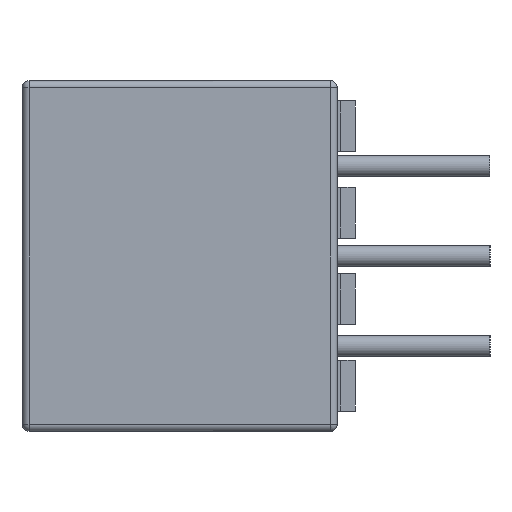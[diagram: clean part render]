
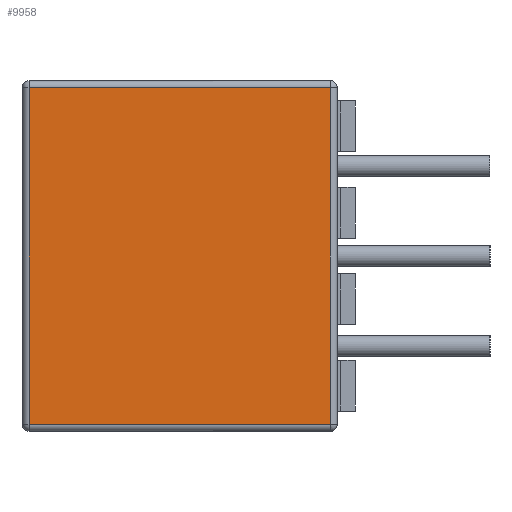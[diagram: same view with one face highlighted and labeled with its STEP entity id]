
A CAD part, left-side view. The second image highlights one B-rep face of the part: STEP entity #9958.
In plain terms, the highlighted planar face has unit normal (-1, 0, 0).
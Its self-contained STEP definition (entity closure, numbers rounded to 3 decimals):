
#9957 = VERTEX_POINT ( 'NONE', #18759 ) ;
#9958 = ADVANCED_FACE ( 'NONE', ( #18758 ), #18757, .T. ) ;
#9959 = ORIENTED_EDGE ( 'NONE', *, *, #9966, .T. ) ;
#9960 = EDGE_LOOP ( 'NONE', ( #9961, #9959, #13125, #10479 ) ) ;
#9961 = ORIENTED_EDGE ( 'NONE', *, *, #9963, .T. ) ;
#9962 = VERTEX_POINT ( 'NONE', #18753 ) ;
#9963 = EDGE_CURVE ( 'NONE', #9964, #9957, #18741, .T. ) ;
#9964 = VERTEX_POINT ( 'NONE', #18735 ) ;
#9966 = EDGE_CURVE ( 'NONE', #9957, #9962, #18731, .T. ) ;
#10479 = ORIENTED_EDGE ( 'NONE', *, *, #12382, .T. ) ;
#12382 = EDGE_CURVE ( 'NONE', #12725, #9964, #33418, .T. ) ;
#12725 = VERTEX_POINT ( 'NONE', #18954 ) ;
#13109 = EDGE_CURVE ( 'NONE', #9962, #12725, #20902, .T. ) ;
#13125 = ORIENTED_EDGE ( 'NONE', *, *, #13109, .T. ) ;
#18726 = DIRECTION ( 'NONE',  ( 0., -1., 0. ) ) ;
#18728 = VECTOR ( 'NONE', #18726, 1000. ) ;
#18730 = CARTESIAN_POINT ( 'NONE',  ( -14.5, 0.004, -4.75 ) ) ;
#18731 = LINE ( 'NONE', #18730, #18728 ) ;
#18735 = CARTESIAN_POINT ( 'NONE',  ( -14.497, 8.69, 4.747 ) ) ;
#18737 = DIRECTION ( 'NONE',  ( 0., 0., -1. ) ) ;
#18738 = VECTOR ( 'NONE', #18737, 1000. ) ;
#18740 = CARTESIAN_POINT ( 'NONE',  ( -14.497, 8.69, -4.947 ) ) ;
#18741 = LINE ( 'NONE', #18740, #18738 ) ;
#18747 = DIRECTION ( 'NONE',  ( 0., -1., 0. ) ) ;
#18748 = DIRECTION ( 'NONE',  ( -1., 0., 0. ) ) ;
#18750 = CARTESIAN_POINT ( 'NONE',  ( -14.5, 0., 4.95 ) ) ;
#18751 = AXIS2_PLACEMENT_3D ( 'NONE', #18750, #18748, #18747 ) ;
#18753 = CARTESIAN_POINT ( 'NONE',  ( -14.5, 0.2, -4.75 ) ) ;
#18757 = PLANE ( 'NONE',  #18751 ) ;
#18758 = FACE_OUTER_BOUND ( 'NONE', #9960, .T. ) ;
#18759 = CARTESIAN_POINT ( 'NONE',  ( -14.497, 8.69, -4.747 ) ) ;
#18954 = CARTESIAN_POINT ( 'NONE',  ( -14.5, 0.2, 4.75 ) ) ;
#20897 = DIRECTION ( 'NONE',  ( 0., 0., 1. ) ) ;
#20898 = VECTOR ( 'NONE', #20897, 1000. ) ;
#20900 = CARTESIAN_POINT ( 'NONE',  ( -14.5, 0.2, 4.95 ) ) ;
#20902 = LINE ( 'NONE', #20900, #20898 ) ;
#33415 = DIRECTION ( 'NONE',  ( 0., 1., 0. ) ) ;
#33416 = VECTOR ( 'NONE', #33415, 1000. ) ;
#33417 = CARTESIAN_POINT ( 'NONE',  ( -14.5, 0., 4.75 ) ) ;
#33418 = LINE ( 'NONE', #33417, #33416 ) ;
